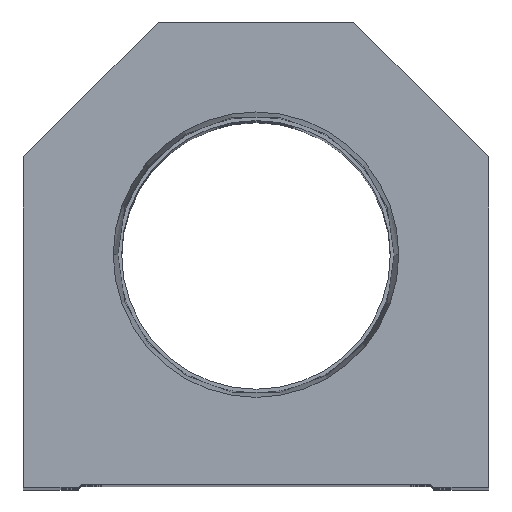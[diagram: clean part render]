
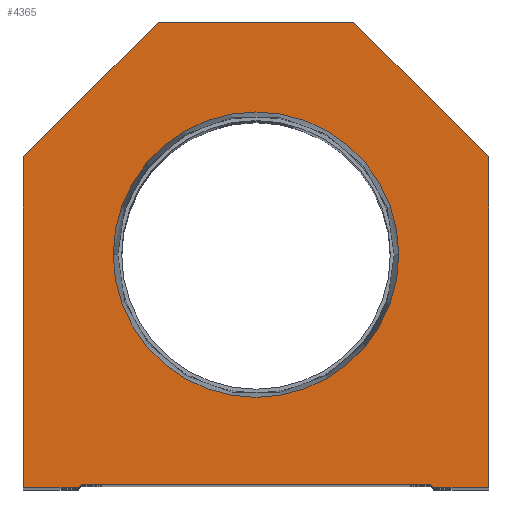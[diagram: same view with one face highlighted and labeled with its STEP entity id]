
A CAD part, top view. The second image highlights one B-rep face of the part: STEP entity #4365.
In plain terms, the highlighted planar face has unit normal (0, 0, 1).
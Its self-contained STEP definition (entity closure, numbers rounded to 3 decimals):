
#540 = VECTOR ( 'NONE', #13623, 1000. ) ;
#986 = LINE ( 'NONE', #1075, #2339 ) ;
#1075 = CARTESIAN_POINT ( 'NONE',  ( 14.55, 14.55, 0. ) ) ;
#1081 = VECTOR ( 'NONE', #12601, 1000. ) ;
#1132 = VERTEX_POINT ( 'NONE', #9909 ) ;
#1136 = LINE ( 'NONE', #2456, #540 ) ;
#1234 = CARTESIAN_POINT ( 'NONE',  ( -16., 76.2, 0. ) ) ;
#1278 = DIRECTION ( 'NONE',  ( 1., 0., 0. ) ) ;
#1648 = EDGE_CURVE ( 'NONE', #9654, #8987, #15503, .T. ) ;
#1871 = CARTESIAN_POINT ( 'NONE',  ( -29.1, 0., 0. ) ) ;
#2126 = ORIENTED_EDGE ( 'NONE', *, *, #13387, .T. ) ;
#2144 = EDGE_CURVE ( 'NONE', #5626, #3430, #4997, .T. ) ;
#2181 = EDGE_CURVE ( 'NONE', #2401, #13238, #3188, .T. ) ;
#2339 = VECTOR ( 'NONE', #5802, 1000. ) ;
#2401 = VERTEX_POINT ( 'NONE', #6611 ) ;
#2411 = LINE ( 'NONE', #11021, #1081 ) ;
#2429 = PLANE ( 'NONE',  #3410 ) ;
#2456 = CARTESIAN_POINT ( 'NONE',  ( 28.6, 0., 0. ) ) ;
#2762 = CARTESIAN_POINT ( 'NONE',  ( 0., 38.1, 0. ) ) ;
#2782 = EDGE_CURVE ( 'NONE', #13238, #9654, #16189, .T. ) ;
#2919 = DIRECTION ( 'NONE',  ( 1., 0., 0. ) ) ;
#3056 = ORIENTED_EDGE ( 'NONE', *, *, #11919, .T. ) ;
#3188 = LINE ( 'NONE', #6867, #7557 ) ;
#3237 = DIRECTION ( 'NONE',  ( 0.707, 0.707, 0. ) ) ;
#3356 = CARTESIAN_POINT ( 'NONE',  ( 28.6, 0.5, 0. ) ) ;
#3410 = AXIS2_PLACEMENT_3D ( 'NONE', #10070, #7672, #1278 ) ;
#3430 = VERTEX_POINT ( 'NONE', #5182 ) ;
#4174 = DIRECTION ( 'NONE',  ( 1., 0., 0. ) ) ;
#4227 = CIRCLE ( 'NONE', #8424, 23.374 ) ;
#4280 = EDGE_CURVE ( 'NONE', #10549, #8027, #4227, .T. ) ;
#4329 = VECTOR ( 'NONE', #5146, 1000. ) ;
#4365 = ADVANCED_FACE ( 'NONE', ( #15104, #7425 ), #2429, .T. ) ;
#4451 = CARTESIAN_POINT ( 'NONE',  ( -14.55, 14.55, 0. ) ) ;
#4595 = VERTEX_POINT ( 'NONE', #7150 ) ;
#4929 = ORIENTED_EDGE ( 'NONE', *, *, #2144, .T. ) ;
#4997 = LINE ( 'NONE', #10027, #12554 ) ;
#5039 = DIRECTION ( 'NONE',  ( 1., 0., 0. ) ) ;
#5135 = ORIENTED_EDGE ( 'NONE', *, *, #2181, .T. ) ;
#5146 = DIRECTION ( 'NONE',  ( 0., -1., 0. ) ) ;
#5182 = CARTESIAN_POINT ( 'NONE',  ( 38.1, 54.1, 0. ) ) ;
#5198 = ORIENTED_EDGE ( 'NONE', *, *, #10574, .F. ) ;
#5339 = VERTEX_POINT ( 'NONE', #12835 ) ;
#5626 = VERTEX_POINT ( 'NONE', #6512 ) ;
#5802 = DIRECTION ( 'NONE',  ( 0.707, -0.707, 0. ) ) ;
#5988 = CARTESIAN_POINT ( 'NONE',  ( 0., 38.1, 0. ) ) ;
#6151 = CARTESIAN_POINT ( 'NONE',  ( -38.1, 54.1, 0. ) ) ;
#6512 = CARTESIAN_POINT ( 'NONE',  ( 38.1, 0., 0. ) ) ;
#6532 = LINE ( 'NONE', #10427, #4329 ) ;
#6611 = CARTESIAN_POINT ( 'NONE',  ( -38.1, 0., 0. ) ) ;
#6867 = CARTESIAN_POINT ( 'NONE',  ( -28.6, 0., 0. ) ) ;
#7150 = CARTESIAN_POINT ( 'NONE',  ( -38.1, 54.1, 0. ) ) ;
#7239 = LINE ( 'NONE', #6151, #15459 ) ;
#7425 = FACE_OUTER_BOUND ( 'NONE', #15693, .T. ) ;
#7557 = VECTOR ( 'NONE', #4174, 1000. ) ;
#7672 = DIRECTION ( 'NONE',  ( 0., 0., 1. ) ) ;
#7830 = CIRCLE ( 'NONE', #9140, 23.374 ) ;
#7967 = ORIENTED_EDGE ( 'NONE', *, *, #11173, .T. ) ;
#8027 = VERTEX_POINT ( 'NONE', #13167 ) ;
#8063 = EDGE_CURVE ( 'NONE', #3430, #1132, #14400, .T. ) ;
#8289 = CARTESIAN_POINT ( 'NONE',  ( 38.1, 54.1, 0. ) ) ;
#8424 = AXIS2_PLACEMENT_3D ( 'NONE', #5988, #14850, #5039 ) ;
#8447 = DIRECTION ( 'NONE',  ( -0.707, 0.707, 0. ) ) ;
#8906 = VECTOR ( 'NONE', #3237, 1000. ) ;
#8936 = ORIENTED_EDGE ( 'NONE', *, *, #1648, .T. ) ;
#8987 = VERTEX_POINT ( 'NONE', #3356 ) ;
#9140 = AXIS2_PLACEMENT_3D ( 'NONE', #2762, #15188, #2919 ) ;
#9215 = DIRECTION ( 'NONE',  ( 1., 0., 0. ) ) ;
#9294 = CARTESIAN_POINT ( 'NONE',  ( -28.6, 0.5, 0. ) ) ;
#9654 = VERTEX_POINT ( 'NONE', #12879 ) ;
#9665 = ORIENTED_EDGE ( 'NONE', *, *, #14827, .T. ) ;
#9909 = CARTESIAN_POINT ( 'NONE',  ( 16., 76.2, 0. ) ) ;
#10027 = CARTESIAN_POINT ( 'NONE',  ( 38.1, 0., 0. ) ) ;
#10070 = CARTESIAN_POINT ( 'NONE',  ( 0., 0., 0. ) ) ;
#10226 = EDGE_CURVE ( 'NONE', #5339, #5626, #1136, .T. ) ;
#10427 = CARTESIAN_POINT ( 'NONE',  ( -38.1, 0., 0. ) ) ;
#10443 = VECTOR ( 'NONE', #9215, 1000. ) ;
#10549 = VERTEX_POINT ( 'NONE', #13694 ) ;
#10574 = EDGE_CURVE ( 'NONE', #8027, #10549, #7830, .T. ) ;
#11021 = CARTESIAN_POINT ( 'NONE',  ( 16., 76.2, 0. ) ) ;
#11030 = DIRECTION ( 'NONE',  ( -0.707, -0.707, 0. ) ) ;
#11173 = EDGE_CURVE ( 'NONE', #14795, #4595, #7239, .T. ) ;
#11919 = EDGE_CURVE ( 'NONE', #8987, #5339, #986, .T. ) ;
#12244 = ORIENTED_EDGE ( 'NONE', *, *, #2782, .T. ) ;
#12554 = VECTOR ( 'NONE', #15069, 1000. ) ;
#12601 = DIRECTION ( 'NONE',  ( -1., 0., 0. ) ) ;
#12835 = CARTESIAN_POINT ( 'NONE',  ( 29.1, 0., 0. ) ) ;
#12879 = CARTESIAN_POINT ( 'NONE',  ( -28.6, 0.5, 0. ) ) ;
#13167 = CARTESIAN_POINT ( 'NONE',  ( 23.374, 38.1, 0. ) ) ;
#13238 = VERTEX_POINT ( 'NONE', #1871 ) ;
#13263 = ORIENTED_EDGE ( 'NONE', *, *, #10226, .T. ) ;
#13387 = EDGE_CURVE ( 'NONE', #1132, #14795, #2411, .T. ) ;
#13424 = EDGE_LOOP ( 'NONE', ( #5198, #14340 ) ) ;
#13503 = ORIENTED_EDGE ( 'NONE', *, *, #8063, .T. ) ;
#13623 = DIRECTION ( 'NONE',  ( 1., 0., 0. ) ) ;
#13694 = CARTESIAN_POINT ( 'NONE',  ( -23.374, 38.1, 0. ) ) ;
#14340 = ORIENTED_EDGE ( 'NONE', *, *, #4280, .F. ) ;
#14400 = LINE ( 'NONE', #8289, #15296 ) ;
#14795 = VERTEX_POINT ( 'NONE', #1234 ) ;
#14827 = EDGE_CURVE ( 'NONE', #4595, #2401, #6532, .T. ) ;
#14850 = DIRECTION ( 'NONE',  ( 0., 0., 1. ) ) ;
#15069 = DIRECTION ( 'NONE',  ( 0., 1., 0. ) ) ;
#15104 = FACE_BOUND ( 'NONE', #13424, .T. ) ;
#15188 = DIRECTION ( 'NONE',  ( 0., 0., 1. ) ) ;
#15296 = VECTOR ( 'NONE', #8447, 1000. ) ;
#15459 = VECTOR ( 'NONE', #11030, 1000. ) ;
#15503 = LINE ( 'NONE', #9294, #10443 ) ;
#15693 = EDGE_LOOP ( 'NONE', ( #5135, #12244, #8936, #3056, #13263, #4929, #13503, #2126, #7967, #9665 ) ) ;
#16189 = LINE ( 'NONE', #4451, #8906 ) ;
